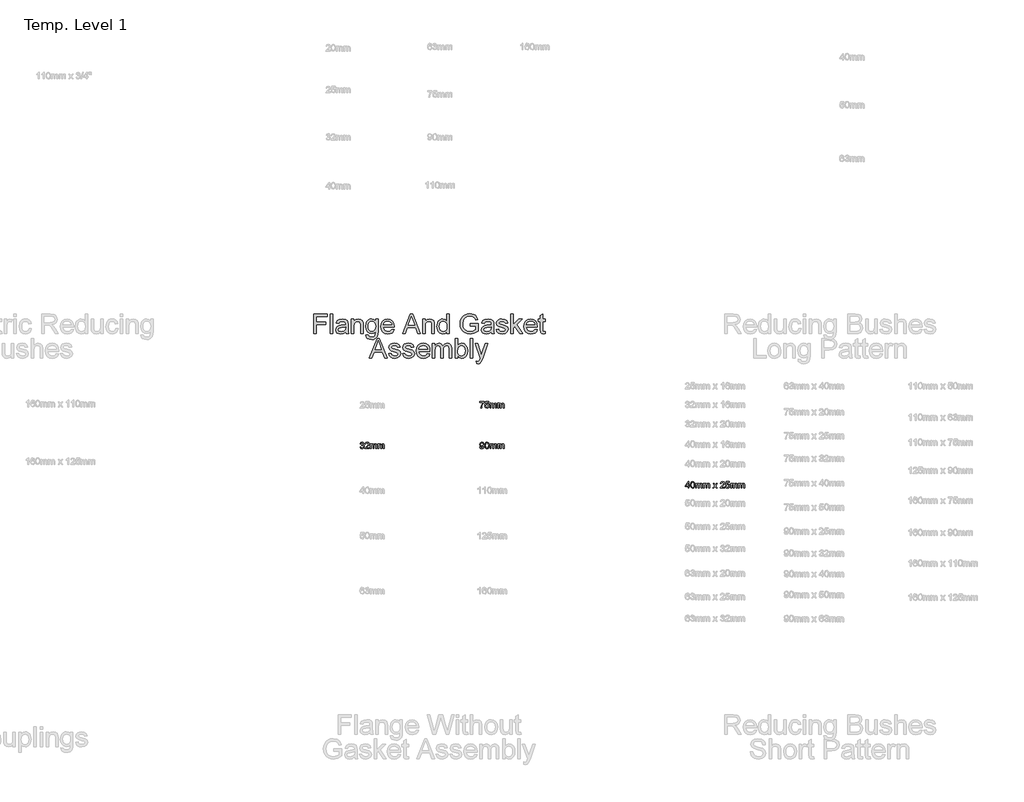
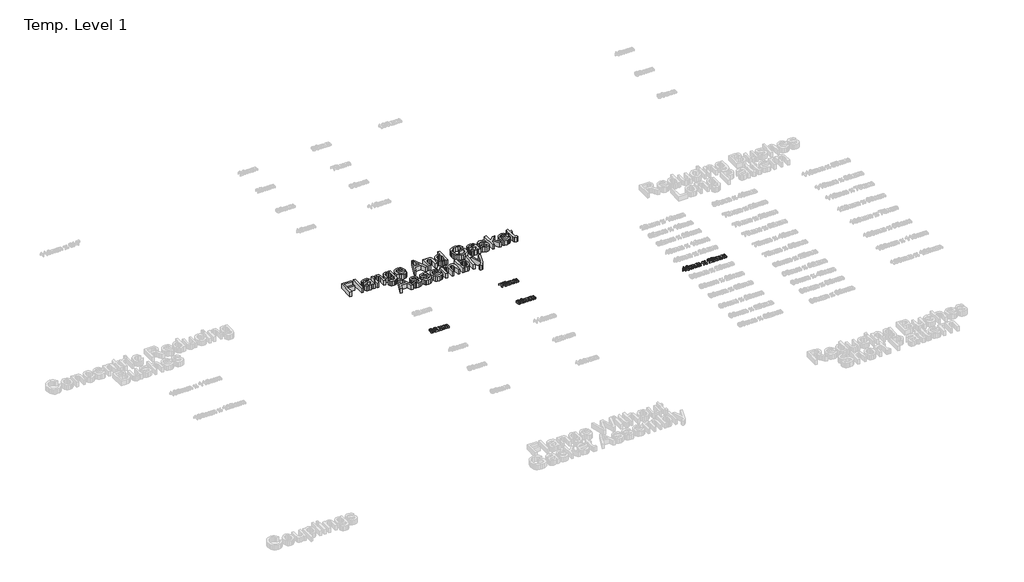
# One storey, part 35 of 62: 5 proxies.
"""IFC4 building model written with IfcOpenShell, lengths in millimetres."""

from ifc_helpers import new_model, si_unit, origin, origin_with_axes, place, context, project, spatial, polyline, outline, extrude, element, save

model = new_model("IFC4")

# Units and contexts
model_context = context("Model", 3, world=origin())
ifc_project = project(units=[si_unit("LENGTHUNIT", "METRE", prefix="MILLI")], contexts=[model_context])

# Site, building, storey
site = spatial("IfcSite", under=ifc_project)
building = spatial("IfcBuilding", under=site)
storey = spatial("IfcBuildingStorey", under=building, Name="Temp. Level 1", Elevation=0.0)

# Proxies
placement = place(None, origin())
element("IfcBuildingElementProxy", 1, Name="150mm Arial", ObjectType="150mm Arial", at=placement, inside=storey, context=model_context, shape_type="SweptSolid", body=[
    extrude(outline(polyline([(20559.579175, -3979.0446709), (20559.579175, -3831.3523632), (20658.8099442, -3831.3523632), (20658.8099442, -3849.8139016), (20578.0407135, -3849.8139016), (20578.0407135, -3893.6600555), (20647.2714827, -3893.6600555), (20647.2714827, -3912.1215939), (20578.0407135, -3912.1215939), (20578.0407135, -3979.0446709), (20559.579175, -3979.0446709)])), origin_with_axes(), (0.0, 0.0, 1.0), 50.0),
    extrude(outline(polyline([(20681.8868673, -3979.0446709), (20681.8868673, -3831.3523632), (20700.3484058, -3831.3523632), (20700.3484058, -3979.0446709), (20681.8868673, -3979.0446709)])), origin_with_axes(), (0.0, 0.0, 1.0), 50.0),
    extrude(outline(polyline([(20797.2714827, -3965.198517), (20779.3688385, -3977.7105362), (20759.5911942, -3981.3523632), (20744.1630091, -3979.1618584), (20732.7823, -3972.5903439), (20725.7645716, -3962.6113776), (20723.4253288, -3950.198517), (20726.9589827, -3935.5951516), (20736.2438385, -3924.9941901), (20749.1705212, -3918.9364978), (20765.1440788, -3916.1600555), (20797.1633096, -3909.8139016), (20797.2714827, -3905.7033247), (20796.000449, -3897.464142), (20792.1873481, -3892.073517), (20783.6597038, -3888.0711132), (20771.7786942, -3886.7369786), (20753.1008096, -3890.2886612), (20744.1945596, -3902.8908247), (20725.7330212, -3900.5831324), (20733.7198, -3882.5542862), (20749.8015308, -3871.9893824), (20774.1585019, -3868.2754401), (20796.5323, -3871.5566901), (20809.1705212, -3879.7958728), (20814.8315788, -3892.3259209), (20815.7330212, -3908.479767), (20815.7330212, -3931.448517), (20816.6705212, -3963.5218343), (20820.3484058, -3979.0446709), (20801.8868673, -3979.0446709), (20797.2714827, -3965.198517)]), holes=[polyline([(20797.2714827, -3928.2754401), (20767.4878288, -3933.9364978), (20751.6044154, -3936.9292862), (20744.4109058, -3941.7970747), (20741.8868673, -3948.9004401), (20747.3856654, -3958.8884209), (20763.5214827, -3962.8908247), (20782.1993673, -3958.4737574), (20794.2426365, -3947.7826516), (20797.1633096, -3933.5038055), (20797.2714827, -3928.2754401)])]), origin_with_axes(), (0.0, 0.0, 1.0), 50.0),
    extrude(outline(polyline([(20841.1176365, -3979.0446709), (20841.1176365, -3870.5831324), (20859.579175, -3870.5831324), (20859.579175, -3885.7273632), (20873.6957615, -3872.6384209), (20892.9685981, -3868.2754401), (20910.4024923, -3871.7910651), (20922.3015308, -3881.0218343), (20927.8363865, -3894.5975555), (20928.8099442, -3912.4461132), (20928.8099442, -3979.0446709), (20910.3484058, -3979.0446709), (20910.3484058, -3914.9340939), (20908.2210019, -3898.5999593), (20900.7029731, -3889.964142), (20888.0286942, -3886.7369786), (20877.2158938, -3888.5488776), (20867.9986462, -3893.9845747), (20861.6840428, -3904.4863776), (20859.579175, -3921.4965939), (20859.579175, -3979.0446709), (20841.1176365, -3979.0446709)])), origin_with_axes(), (0.0, 0.0, 1.0), 50.0),
    extrude(outline(polyline([(20949.579175, -3988.2754401), (20968.0407135, -3990.5831324), (20974.0262904, -4000.3187093), (20991.9469635, -4004.4292862), (21010.8411942, -3999.7778439), (21019.8556173, -3986.7249593), (21021.1176365, -3965.198517), (21008.1188385, -3975.5831324), (20992.2714827, -3979.0446709), (20973.2375284, -3975.0152237), (20959.0443192, -3962.9268824), (20950.2146918, -3945.2045266), (20947.2714827, -3924.2730362), (20952.5539346, -3895.6612574), (20959.017276, -3884.0461733), (20967.8423962, -3875.4148632), (20978.727312, -3870.0602959), (20991.3700404, -3868.2754401), (21007.8393913, -3872.3139016), (21021.1176365, -3884.4292862), (21021.1176365, -3870.5831324), (21039.579175, -3870.5831324), (21039.579175, -3964.2249593), (21038.3171558, -3985.8460531), (21034.5310981, -4000.0843343), (21028.009163, -4009.5269425), (21018.5395115, -4016.761017), (21006.3294755, -4021.3583728), (20991.5863865, -4022.8908247), (20974.4094034, -4020.7318704), (20960.8832615, -4014.2550074), (20952.2068793, -4003.4422069), (20949.579175, -3988.2754401)]), holes=[polyline([(20965.7330212, -3923.011017), (20967.7026726, -3939.9446108), (20973.6116269, -3951.5867382), (20982.4953409, -3958.3340338), (20993.3892712, -3960.5831324), (21004.2020716, -3958.3475555), (21013.1308577, -3951.6408247), (21019.1209418, -3940.1474353), (21021.1176365, -3923.5518824), (21019.0623481, -3907.5467742), (21012.8964827, -3896.0218343), (21003.8369875, -3889.0581925), (20993.1008096, -3886.7369786), (20982.5584418, -3889.0221348), (20973.7198, -3895.8776036), (20967.7297159, -3907.2312694), (20965.7330212, -3923.011017)])]), origin_with_axes(), (0.0, 0.0, 1.0), 50.0),
    extrude(outline(polyline([(21143.2089827, -3946.7369786), (21161.3099442, -3949.0446709), (21154.7880091, -3962.683493), (21144.3808577, -3972.8788055), (21130.3228649, -3979.2339737), (21112.8484058, -3981.3523632), (21091.1867471, -3977.6970146), (21074.5190788, -3966.7309689), (21063.891074, -3949.1663656), (21060.3484058, -3925.7153439), (21063.9271317, -3901.4755603), (21074.6633096, -3883.3475555), (21091.1056173, -3872.0434689), (21111.8027327, -3868.2754401), (21131.8553168, -3872.0344545), (21147.8784538, -3883.3114978), (21158.3847639, -3901.4034449), (21161.8868673, -3925.6071709), (21161.7786942, -3930.5831324), (21078.8099442, -3930.5831324), (21082.0055572, -3944.402243), (21089.4289346, -3954.5614978), (21100.1425764, -3960.808493), (21113.2089827, -3962.8908247), (21131.3099442, -3959.0326516), (21143.2089827, -3946.7369786)]), holes=[polyline([(21078.8099442, -3912.1215939), (21143.4253288, -3912.1215939), (21140.9283337, -3902.3679882), (21136.0335019, -3895.3908247), (21125.2702808, -3888.9004401), (21111.7306173, -3886.7369786), (21099.2862063, -3888.4632406), (21088.9962423, -3893.6420266), (21081.8432976, -3901.7144425), (21078.8099442, -3912.1215939)])]), origin_with_axes(), (0.0, 0.0, 1.0), 50.0),
    extrude(outline(polyline([(21223.1488865, -3979.0446709), (21282.1032135, -3831.3523632), (21297.8243673, -3831.3523632), (21356.7786942, -3979.0446709), (21337.2714827, -3979.0446709), (21320.360425, -3932.8908247), (21259.5310981, -3932.8908247), (21242.6560981, -3979.0446709), (21223.1488865, -3979.0446709)]), holes=[polyline([(21266.3099442, -3914.4292862), (21313.6176365, -3914.4292862), (21300.3123481, -3878.1191901), (21289.9637904, -3849.8139016), (21280.7690788, -3874.9461132), (21266.3099442, -3914.4292862)])]), origin_with_axes(), (0.0, 0.0, 1.0), 50.0),
    extrude(outline(polyline([(21374.1945596, -3979.0446709), (21374.1945596, -3870.5831324), (21392.6560981, -3870.5831324), (21392.6560981, -3885.7273632), (21406.7726846, -3872.6384209), (21426.0455212, -3868.2754401), (21443.4794154, -3871.7910651), (21455.3784538, -3881.0218343), (21460.9133096, -3894.5975555), (21461.8868673, -3912.4461132), (21461.8868673, -3979.0446709), (21443.4253288, -3979.0446709), (21443.4253288, -3914.9340939), (21441.297925, -3898.5999593), (21433.7798962, -3889.964142), (21421.1056173, -3886.7369786), (21410.2928168, -3888.5488776), (21401.0755692, -3893.9845747), (21394.7609659, -3904.4863776), (21392.6560981, -3921.4965939), (21392.6560981, -3979.0446709), (21374.1945596, -3979.0446709)])), origin_with_axes(), (0.0, 0.0, 1.0), 50.0),
    extrude(outline(polyline([(21554.1945596, -3979.0446709), (21554.1945596, -3961.6288055), (21541.9800163, -3976.4214737), (21525.0960019, -3981.3523632), (21513.1609058, -3979.5675074), (21502.235425, -3974.2129401), (21492.9866269, -3965.6627598), (21486.0815788, -3954.2910651), (21481.781699, -3940.5575915), (21480.3484058, -3924.9220747), (21485.6308577, -3895.5350555), (21492.2294154, -3883.8794064), (21501.4601846, -3875.3066901), (21512.6245476, -3870.0332526), (21525.0238865, -3868.2754401), (21542.0431173, -3873.3054882), (21554.1945596, -3886.3764016), (21554.1945596, -3831.3523632), (21572.6560981, -3831.3523632), (21572.6560981, -3979.0446709), (21554.1945596, -3979.0446709)]), holes=[polyline([(21498.8099442, -3924.8499593), (21500.892276, -3941.5491781), (21507.1392712, -3953.4256805), (21516.2167952, -3960.5245387), (21526.7907135, -3962.8908247), (21537.3601245, -3960.6327117), (21546.2077808, -3953.8583728), (21552.1978649, -3942.441606), (21554.1945596, -3926.2562093), (21552.1618072, -3908.5608968), (21546.06355, -3896.292267), (21536.9905332, -3889.1258007), (21526.0335019, -3886.7369786), (21515.3514106, -3889.0311492), (21506.5984058, -3895.9136612), (21500.7570596, -3907.7360771), (21498.8099442, -3924.8499593)])]), origin_with_axes(), (0.0, 0.0, 1.0), 50.0),
    extrude(outline(polyline([(21729.579175, -3921.3523632), (21729.579175, -3902.8908247), (21789.579175, -3902.8908247), (21789.579175, -3958.0951516), (21759.9577808, -3975.511017), (21728.641675, -3981.3523632), (21707.931038, -3979.0311492), (21689.2125885, -3972.0675074), (21673.6627087, -3960.7048271), (21662.4577808, -3945.1864978), (21655.6834418, -3926.5717141), (21653.4253288, -3905.9196709), (21655.6744274, -3885.1188896), (21662.4217231, -3865.7694305), (21673.3877688, -3849.5389617), (21688.2931173, -3838.0951516), (21706.4481654, -3831.3072911), (21727.1633096, -3829.0446709), (21756.0455212, -3834.2910651), (21767.5614466, -3840.5651036), (21776.2919154, -3848.8944305), (21787.4517712, -3873.323517), (21770.4325404, -3878.1191901), (21762.0130692, -3861.0458728), (21747.62605, -3851.2021228), (21726.8748481, -3847.5062093), (21703.2390308, -3851.4905843), (21687.1573, -3861.9473151), (21677.6560981, -3876.1720747), (21671.8868673, -3905.1624593), (21673.6221438, -3922.8172069), (21678.8279731, -3937.3439497), (21687.3466029, -3948.6390218), (21699.0202808, -3956.5987574), (21712.6816389, -3961.3178079), (21727.1633096, -3962.8908247), (21752.4217231, -3958.1492382), (21771.1176365, -3948.0350555), (21771.1176365, -3921.3523632), (21729.579175, -3921.3523632)])), origin_with_axes(), (0.0, 0.0, 1.0), 50.0),
    extrude(outline(polyline([(21886.5022519, -3965.198517), (21868.5996077, -3977.7105362), (21848.8219635, -3981.3523632), (21833.3937784, -3979.1618584), (21822.0130692, -3972.5903439), (21814.9953409, -3962.6113776), (21812.6560981, -3950.198517), (21816.1897519, -3935.5951516), (21825.4746077, -3924.9941901), (21838.4012904, -3918.9364978), (21854.3748481, -3916.1600555), (21886.3940788, -3909.8139016), (21886.5022519, -3905.7033247), (21885.2312183, -3897.464142), (21881.4181173, -3892.073517), (21872.8904731, -3888.0711132), (21861.0094635, -3886.7369786), (21842.3315788, -3890.2886612), (21833.4253288, -3902.8908247), (21814.9637904, -3900.5831324), (21822.9505692, -3882.5542862), (21839.0323, -3871.9893824), (21863.3892712, -3868.2754401), (21885.7630692, -3871.5566901), (21898.4012904, -3879.7958728), (21904.0623481, -3892.3259209), (21904.9637904, -3908.479767), (21904.9637904, -3931.448517), (21905.9012904, -3963.5218343), (21909.579175, -3979.0446709), (21891.1176365, -3979.0446709), (21886.5022519, -3965.198517)]), holes=[polyline([(21886.5022519, -3928.2754401), (21856.7185981, -3933.9364978), (21840.8351846, -3936.9292862), (21833.641675, -3941.7970747), (21831.1176365, -3948.9004401), (21836.6164346, -3958.8884209), (21852.7522519, -3962.8908247), (21871.4301365, -3958.4737574), (21883.4734058, -3947.7826516), (21886.3940788, -3933.5038055), (21886.5022519, -3928.2754401)])]), origin_with_axes(), (0.0, 0.0, 1.0), 50.0),
    extrude(outline(polyline([(21923.4253288, -3946.7369786), (21941.8868673, -3944.4292862), (21944.798526, -3952.3259209), (21950.4325404, -3958.1312093), (21970.0118673, -3962.8908247), (21988.8339827, -3958.5278439), (21994.9637904, -3948.2874593), (21988.797925, -3939.9941901), (21969.7955212, -3934.729767), (21941.9950404, -3925.6973151), (21929.8616269, -3915.1504401), (21925.7330212, -3900.2586132), (21929.0503288, -3886.5026036), (21938.1008096, -3875.9917862), (21949.8375885, -3870.5290459), (21965.7210019, -3868.2754401), (21988.1849442, -3871.8992382), (22002.4637904, -3881.7069305), (22008.8099442, -3898.2754401), (21990.3484058, -3900.5831324), (21983.4073, -3890.3968343), (21967.1633096, -3886.7369786), (21949.4950404, -3890.2345747), (21944.1945596, -3898.3836132), (21946.3940788, -3903.7562093), (21953.2810981, -3907.8307286), (21969.1825404, -3911.761017), (21996.2798962, -3920.4509209), (22008.8640308, -3930.2946709), (22013.4253288, -3946.3403439), (22008.0707615, -3964.0086132), (21992.6200404, -3976.8271228), (21969.7594635, -3981.3523632), (21951.1446798, -3979.1708728), (21937.5599442, -3972.6264016), (21928.4914346, -3961.7910651), (21923.4253288, -3946.7369786)])), origin_with_axes(), (0.0, 0.0, 1.0), 50.0),
    extrude(outline(polyline([(22034.1945596, -3979.0446709), (22034.1945596, -3831.3523632), (22052.6560981, -3831.3523632), (22052.6560981, -3910.7153439), (22094.0503288, -3870.5831324), (22119.579175, -3870.5831324), (22077.6801365, -3911.2201516), (22121.8868673, -3979.0446709), (22100.3243673, -3979.0446709), (22064.4469635, -3924.0566901), (22052.6560981, -3935.4869786), (22052.6560981, -3979.0446709), (22034.1945596, -3979.0446709)])), origin_with_axes(), (0.0, 0.0, 1.0), 50.0),
    extrude(outline(polyline([(22213.9782135, -3946.7369786), (22232.079175, -3949.0446709), (22225.5572399, -3962.683493), (22215.1500885, -3972.8788055), (22201.0920957, -3979.2339737), (22183.6176365, -3981.3523632), (22161.9559779, -3977.6970146), (22145.2883096, -3966.7309689), (22134.6603048, -3949.1663656), (22131.1176365, -3925.7153439), (22134.6963625, -3901.4755603), (22145.4325404, -3883.3475555), (22161.8748481, -3872.0434689), (22182.5719635, -3868.2754401), (22202.6245476, -3872.0344545), (22218.6476846, -3883.3114978), (22229.1539947, -3901.4034449), (22232.6560981, -3925.6071709), (22232.547925, -3930.5831324), (22149.579175, -3930.5831324), (22152.774788, -3944.402243), (22160.1981654, -3954.5614978), (22170.9118072, -3960.808493), (22183.9782135, -3962.8908247), (22202.079175, -3959.0326516), (22213.9782135, -3946.7369786)]), holes=[polyline([(22149.579175, -3912.1215939), (22214.1945596, -3912.1215939), (22211.6975644, -3902.3679882), (22206.8027327, -3895.3908247), (22196.0395115, -3888.9004401), (22182.4998481, -3886.7369786), (22170.055437, -3888.4632406), (22159.7654731, -3893.6420266), (22152.6125284, -3901.7144425), (22149.579175, -3912.1215939)])]), origin_with_axes(), (0.0, 0.0, 1.0), 50.0),
    extrude(outline(polyline([(22290.3484058, -3963.6480362), (22292.6560981, -3979.5855362), (22278.8460019, -3981.3523632), (22263.3772519, -3978.2874593), (22255.6609058, -3970.2465939), (22253.4253288, -3949.2970747), (22253.4253288, -3889.0446709), (22239.579175, -3889.0446709), (22239.579175, -3870.5831324), (22253.4253288, -3870.5831324), (22253.4253288, -3844.2249593), (22271.8868673, -3833.3715939), (22271.8868673, -3870.5831324), (22290.3484058, -3870.5831324), (22290.3484058, -3889.0446709), (22271.8868673, -3889.0446709), (22271.8868673, -3948.7562093), (22272.860425, -3958.2754401), (22276.0154731, -3961.6468343), (22282.3075404, -3962.8908247), (22290.3484058, -3963.6480362)])), origin_with_axes(), (0.0, 0.0, 1.0), 50.0),
    extrude(outline(polyline([(20975.0719635, -4161.3523632), (21034.0262904, -4013.6600555), (21049.7474442, -4013.6600555), (21108.7017712, -4161.3523632), (21089.1945596, -4161.3523632), (21072.2835019, -4115.198517), (21011.454175, -4115.198517), (20994.579175, -4161.3523632), (20975.0719635, -4161.3523632)]), holes=[polyline([(21018.2330212, -4096.7369786), (21065.5407135, -4096.7369786), (21052.235425, -4060.4268824), (21041.8868673, -4032.1215939), (21032.6921558, -4057.2538055), (21018.2330212, -4096.7369786)])]), origin_with_axes(), (0.0, 0.0, 1.0), 50.0),
    extrude(outline(polyline([(21119.1945596, -4129.0446709), (21137.6560981, -4126.7369786), (21140.5677567, -4134.6336132), (21146.2017712, -4140.4389016), (21165.7810981, -4145.198517), (21184.6032135, -4140.8355362), (21190.7330212, -4130.5951516), (21184.5671558, -4122.3018824), (21165.5647519, -4117.0374593), (21137.7642712, -4108.0050074), (21125.6308577, -4097.4581324), (21121.5022519, -4082.5663055), (21124.8195596, -4068.8102959), (21133.8700404, -4058.2994786), (21145.6068192, -4052.8367382), (21161.4902327, -4050.5831324), (21183.954175, -4054.2069305), (21198.2330212, -4064.0146228), (21204.579175, -4080.5831324), (21186.1176365, -4082.8908247), (21179.1765308, -4072.7045266), (21162.9325404, -4069.0446709), (21145.2642712, -4072.542267), (21139.9637904, -4080.6913055), (21142.1633096, -4086.0639016), (21149.0503288, -4090.1384209), (21164.9517712, -4094.0687093), (21192.0491269, -4102.7586132), (21204.6332615, -4112.6023632), (21209.1945596, -4128.6480362), (21203.8399923, -4146.3163055), (21188.3892712, -4159.1348151), (21165.5286942, -4163.6600555), (21146.9139106, -4161.4785651), (21133.329175, -4154.9340939), (21124.2606654, -4144.0987574), (21119.1945596, -4129.0446709)])), origin_with_axes(), (0.0, 0.0, 1.0), 50.0),
    extrude(outline(polyline([(21223.0407135, -4129.0446709), (21241.5022519, -4126.7369786), (21244.4139106, -4134.6336132), (21250.047925, -4140.4389016), (21269.6272519, -4145.198517), (21288.4493673, -4140.8355362), (21294.579175, -4130.5951516), (21288.4133096, -4122.3018824), (21269.4109058, -4117.0374593), (21241.610425, -4108.0050074), (21229.4770115, -4097.4581324), (21225.3484058, -4082.5663055), (21228.6657135, -4068.8102959), (21237.7161942, -4058.2994786), (21249.4529731, -4052.8367382), (21265.3363865, -4050.5831324), (21287.8003288, -4054.2069305), (21302.079175, -4064.0146228), (21308.4253288, -4080.5831324), (21289.9637904, -4082.8908247), (21283.0226846, -4072.7045266), (21266.7786942, -4069.0446709), (21249.110425, -4072.542267), (21243.8099442, -4080.6913055), (21246.0094635, -4086.0639016), (21252.8964827, -4090.1384209), (21268.797925, -4094.0687093), (21295.8952808, -4102.7586132), (21308.4794154, -4112.6023632), (21313.0407135, -4128.6480362), (21307.6861462, -4146.3163055), (21292.235425, -4159.1348151), (21269.3748481, -4163.6600555), (21250.7600644, -4161.4785651), (21237.1753288, -4154.9340939), (21228.1068192, -4144.0987574), (21223.0407135, -4129.0446709)])), origin_with_axes(), (0.0, 0.0, 1.0), 50.0),
    extrude(outline(polyline([(21409.7474442, -4129.0446709), (21427.8484058, -4131.3523632), (21421.3264707, -4144.9911853), (21410.9193192, -4155.1864978), (21396.8613264, -4161.5416661), (21379.3868673, -4163.6600555), (21357.7252087, -4160.0047069), (21341.0575404, -4149.0386612), (21330.4295356, -4131.4740579), (21326.8868673, -4108.0230362), (21330.4655933, -4083.7832526), (21341.2017712, -4065.6552478), (21357.6440788, -4054.3511612), (21378.3411942, -4050.5831324), (21398.3937784, -4054.3421468), (21414.4169154, -4065.6191901), (21424.9232255, -4083.7111372), (21428.4253288, -4107.9148632), (21428.3171558, -4112.8908247), (21345.3484058, -4112.8908247), (21348.5440188, -4126.7099353), (21355.9673962, -4136.8691901), (21366.681038, -4143.1161853), (21379.7474442, -4145.198517), (21397.8484058, -4141.3403439), (21409.7474442, -4129.0446709)]), holes=[polyline([(21345.3484058, -4094.4292862), (21409.9637904, -4094.4292862), (21407.4667952, -4084.6756805), (21402.5719635, -4077.698517), (21391.8087423, -4071.2081324), (21378.2690788, -4069.0446709), (21365.8246678, -4070.7709329), (21355.5347038, -4075.9497189), (21348.3817591, -4084.0221348), (21345.3484058, -4094.4292862)])]), origin_with_axes(), (0.0, 0.0, 1.0), 50.0),
    extrude(outline(polyline([(21446.8868673, -4161.3523632), (21446.8868673, -4052.8908247), (21465.3484058, -4052.8908247), (21465.3484058, -4070.7393824), (21478.0407135, -4056.1179882), (21496.1056173, -4050.5831324), (21506.3730452, -4051.9938896), (21514.6032135, -4056.2261612), (21524.7714827, -4072.0374593), (21539.1765308, -4055.9467141), (21557.3676365, -4050.5831324), (21571.2453409, -4052.8142021), (21581.5082615, -4059.5074112), (21587.8499082, -4070.8430483), (21589.9637904, -4087.0014016), (21589.9637904, -4161.3523632), (21571.5022519, -4161.3523632), (21571.5022519, -4094.9340939), (21569.7895115, -4079.5194305), (21563.5875885, -4071.9292862), (21553.0407135, -4069.0446709), (21543.0392111, -4070.8926276), (21534.8856654, -4076.4364978), (21529.4634899, -4086.0548872), (21527.6560981, -4100.1264016), (21527.6560981, -4161.3523632), (21509.1945596, -4161.3523632), (21509.1945596, -4092.8788055), (21504.9217231, -4074.9941901), (21499.2832014, -4070.5320507), (21490.9133096, -4069.0446709), (21477.2474442, -4073.011017), (21468.1609058, -4084.6215939), (21465.3484058, -4106.6528439), (21465.3484058, -4161.3523632), (21446.8868673, -4161.3523632)])), origin_with_axes(), (0.0, 0.0, 1.0), 50.0),
    extrude(outline(polyline([(21636.1176365, -4161.3523632), (21617.6560981, -4161.3523632), (21617.6560981, -4013.6600555), (21636.1176365, -4013.6600555), (21636.1176365, -4068.4316901), (21649.0443192, -4055.0452718), (21665.1080212, -4050.5831324), (21683.6056173, -4054.6035651), (21697.9565788, -4065.9076516), (21706.7726846, -4083.4857766), (21709.9637904, -4105.4989978), (21706.6600043, -4130.1444305), (21696.7486462, -4148.479767), (21682.2038745, -4159.8649834), (21664.9998481, -4163.6600555), (21648.5845837, -4158.7652237), (21636.1176365, -4144.0807286), (21636.1176365, -4161.3523632)]), holes=[polyline([(21636.1176365, -4106.3643824), (21637.3796558, -4121.761017), (21641.1657135, -4132.1816901), (21650.8381894, -4141.9443103), (21663.4133096, -4145.198517), (21674.0683577, -4142.8006805), (21683.172925, -4135.6071709), (21689.4199202, -4123.6630603), (21691.5022519, -4107.0134209), (21689.5055572, -4090.120392), (21683.5154731, -4078.3114978), (21674.6948601, -4071.3613776), (21664.2065788, -4069.0446709), (21653.5515308, -4071.4425074), (21644.4469635, -4078.636017), (21638.1999683, -4090.3637814), (21636.1176365, -4106.3643824)])]), origin_with_axes(), (0.0, 0.0, 1.0), 50.0),
    extrude(outline(polyline([(21730.7330212, -4161.3523632), (21730.7330212, -4013.6600555), (21749.1945596, -4013.6600555), (21749.1945596, -4161.3523632), (21730.7330212, -4161.3523632)])), origin_with_axes(), (0.0, 0.0, 1.0), 50.0),
    extrude(outline(polyline([(21776.8868673, -4202.8908247), (21774.579175, -4185.1143824), (21783.954175, -4186.7369786), (21792.7161942, -4184.6997189), (21798.0887904, -4179.0206324), (21803.1368673, -4165.4268824), (21804.579175, -4160.9557286), (21765.3484058, -4052.8908247), (21784.8195596, -4052.8908247), (21805.6248481, -4113.1071709), (21812.8724442, -4137.1937093), (21820.1200404, -4115.9196709), (21841.5022519, -4052.8908247), (21860.829175, -4052.8908247), (21823.0767712, -4163.948517), (21813.2690788, -4188.0350555), (21802.5599442, -4201.0518824), (21788.172925, -4205.198517), (21776.8868673, -4202.8908247)])), origin_with_axes(), (0.0, 0.0, 1.0), 50.0),
])
element("IfcBuildingElementProxy", 2, Name="50mm Arial", ObjectType="50mm Arial", at=placement, inside=storey, context=model_context, shape_type="SweptSolid", body=[
    extrude(outline(polyline([(20905.2361186, -4827.1215939), (20911.3899648, -4826.3523632), (20914.7853975, -4832.8307286), (20921.1375609, -4834.8139016), (20928.6135225, -4832.0855362), (20931.3899648, -4825.3307286), (20928.6375609, -4818.9665459), (20921.6423686, -4816.448517), (20917.3274648, -4817.1215939), (20918.0125609, -4810.9677478), (20925.9813109, -4809.2730362), (20929.0822725, -4803.8403439), (20926.8346763, -4799.026642), (20921.0414071, -4797.1215939), (20915.1760225, -4799.0446709), (20912.1591956, -4804.8139016), (20906.0053494, -4804.0446709), (20911.0414071, -4794.3932286), (20920.8250609, -4790.9677478), (20928.2469359, -4792.6564497), (20933.4392436, -4797.2718343), (20935.2361186, -4803.479767), (20933.5293879, -4809.1528439), (20928.4813109, -4813.2273632), (20935.1880417, -4817.4340939), (20937.5438109, -4825.4389016), (20932.8322725, -4836.448517), (20920.9212148, -4840.9677478), (20910.1279456, -4837.1095747), (20905.2361186, -4827.1215939)])), origin_with_axes(), (0.0, 0.0, 1.0), 15.0),
    extrude(outline(polyline([(20974.4668879, -4834.0446709), (20974.4668879, -4840.198517), (20942.1591956, -4840.198517), (20942.8202533, -4835.9557286), (20946.558234, -4829.4232766), (20954.2625609, -4822.2898632), (20964.8875609, -4812.0374593), (20967.5438109, -4805.0663055), (20965.0378013, -4799.4232766), (20958.4933302, -4797.1215939), (20951.6724167, -4799.3691901), (20949.0822725, -4805.5831324), (20942.9284263, -4804.8139016), (20947.6459744, -4794.5134209), (20958.6255417, -4790.9677478), (20969.6411667, -4794.9100555), (20973.6976571, -4804.6937093), (20972.6039071, -4810.5290459), (20968.9680898, -4816.5626997), (20960.151984, -4824.9941901), (20953.0726571, -4830.9136612), (20950.2962148, -4834.0446709), (20974.4668879, -4834.0446709)])), origin_with_axes(), (0.0, 0.0, 1.0), 15.0),
    extrude(outline(polyline([(20982.1591956, -4840.198517), (20982.1591956, -4804.0446709), (20988.3130417, -4804.0446709), (20988.3130417, -4809.9941901), (20992.5438109, -4805.120392), (20998.5654456, -4803.2754401), (21004.7313109, -4805.1564497), (21008.120734, -4810.4268824), (21012.9224167, -4805.0633007), (21018.9861186, -4803.2754401), (21027.0329936, -4806.2501997), (21029.8515033, -4815.4148632), (21029.8515033, -4840.198517), (21023.6976571, -4840.198517), (21023.6976571, -4818.0590939), (21023.1267436, -4812.9208728), (21021.0594359, -4810.3908247), (21017.5438109, -4809.4292862), (21011.4921283, -4811.8932286), (21009.0822725, -4819.7898632), (21009.0822725, -4840.198517), (21002.9284263, -4840.198517), (21002.9284263, -4817.3739978), (21001.5041475, -4811.4124593), (20996.8346763, -4809.4292862), (20992.2793879, -4810.7514016), (20989.2505417, -4814.6215939), (20988.3130417, -4821.9653439), (20988.3130417, -4840.198517), (20982.1591956, -4840.198517)])), origin_with_axes(), (0.0, 0.0, 1.0), 15.0),
    extrude(outline(polyline([(21039.0822725, -4840.198517), (21039.0822725, -4804.0446709), (21045.2361186, -4804.0446709), (21045.2361186, -4809.9941901), (21049.4668879, -4805.120392), (21055.4885225, -4803.2754401), (21061.6543879, -4805.1564497), (21065.0438109, -4810.4268824), (21069.8454936, -4805.0633007), (21075.9091956, -4803.2754401), (21083.9560706, -4806.2501997), (21086.7745802, -4815.4148632), (21086.7745802, -4840.198517), (21080.620734, -4840.198517), (21080.620734, -4818.0590939), (21080.0498206, -4812.9208728), (21077.9825129, -4810.3908247), (21074.4668879, -4809.4292862), (21068.4152052, -4811.8932286), (21066.0053494, -4819.7898632), (21066.0053494, -4840.198517), (21059.8515033, -4840.198517), (21059.8515033, -4817.3739978), (21058.4272244, -4811.4124593), (21053.7577533, -4809.4292862), (21049.2024648, -4810.7514016), (21046.1736186, -4814.6215939), (21045.2361186, -4821.9653439), (21045.2361186, -4840.198517), (21039.0822725, -4840.198517)])), origin_with_axes(), (0.0, 0.0, 1.0), 15.0),
])
element("IfcBuildingElementProxy", 3, Name="50mm Arial", ObjectType="50mm Arial", at=placement, inside=storey, context=model_context, shape_type="SweptSolid", body=[
    extrude(outline(polyline([(21801.2361186, -4492.8908247), (21801.2361186, -4486.7369786), (21833.5438109, -4486.7369786), (21833.5438109, -4491.7129401), (21824.3791475, -4504.9521228), (21817.3659263, -4521.8211132), (21815.0822725, -4535.198517), (21808.9284263, -4535.198517), (21811.3743398, -4521.3163055), (21818.0870802, -4505.6251997), (21827.3899648, -4492.8908247), (21801.2361186, -4492.8908247)])), origin_with_axes(), (0.0, 0.0, 1.0), 15.0),
    extrude(outline(polyline([(21838.9284263, -4522.1215939), (21845.0822725, -4521.3523632), (21848.183234, -4527.6925074), (21854.6135225, -4529.8139016), (21862.3298686, -4526.8631805), (21865.0822725, -4519.0326516), (21862.5041475, -4511.7249593), (21854.7096763, -4509.0446709), (21849.3070321, -4510.1143824), (21845.8515033, -4512.8908247), (21839.6976571, -4512.1215939), (21845.0822725, -4486.7369786), (21868.9284263, -4486.7369786), (21868.9284263, -4492.8908247), (21850.058234, -4492.8908247), (21847.4260225, -4506.448517), (21856.4284263, -4502.8908247), (21866.9512629, -4507.3018824), (21871.2361186, -4518.6480362), (21867.3779456, -4530.0663055), (21861.8370802, -4534.4923872), (21854.589484, -4535.9677478), (21843.730109, -4532.1756805), (21838.9284263, -4522.1215939)])), origin_with_axes(), (0.0, 0.0, 1.0), 15.0),
    extrude(outline(polyline([(21878.1591956, -4535.198517), (21878.1591956, -4499.0446709), (21884.3130417, -4499.0446709), (21884.3130417, -4504.9941901), (21888.5438109, -4500.120392), (21894.5654456, -4498.2754401), (21900.7313109, -4500.1564497), (21904.120734, -4505.4268824), (21908.9224167, -4500.0633007), (21914.9861186, -4498.2754401), (21923.0329936, -4501.2501997), (21925.8515033, -4510.4148632), (21925.8515033, -4535.198517), (21919.6976571, -4535.198517), (21919.6976571, -4513.0590939), (21919.1267436, -4507.9208728), (21917.0594359, -4505.3908247), (21913.5438109, -4504.4292862), (21907.4921283, -4506.8932286), (21905.0822725, -4514.7898632), (21905.0822725, -4535.198517), (21898.9284263, -4535.198517), (21898.9284263, -4512.3739978), (21897.5041475, -4506.4124593), (21892.8346763, -4504.4292862), (21888.2793879, -4505.7514016), (21885.2505417, -4509.6215939), (21884.3130417, -4516.9653439), (21884.3130417, -4535.198517), (21878.1591956, -4535.198517)])), origin_with_axes(), (0.0, 0.0, 1.0), 15.0),
    extrude(outline(polyline([(21935.0822725, -4535.198517), (21935.0822725, -4499.0446709), (21941.2361186, -4499.0446709), (21941.2361186, -4504.9941901), (21945.4668879, -4500.120392), (21951.4885225, -4498.2754401), (21957.6543879, -4500.1564497), (21961.0438109, -4505.4268824), (21965.8454936, -4500.0633007), (21971.9091956, -4498.2754401), (21979.9560706, -4501.2501997), (21982.7745802, -4510.4148632), (21982.7745802, -4535.198517), (21976.620734, -4535.198517), (21976.620734, -4513.0590939), (21976.0498206, -4507.9208728), (21973.9825129, -4505.3908247), (21970.4668879, -4504.4292862), (21964.4152052, -4506.8932286), (21962.0053494, -4514.7898632), (21962.0053494, -4535.198517), (21955.8515033, -4535.198517), (21955.8515033, -4512.3739978), (21954.4272244, -4506.4124593), (21949.7577533, -4504.4292862), (21945.2024648, -4505.7514016), (21942.1736186, -4509.6215939), (21941.2361186, -4516.9653439), (21941.2361186, -4535.198517), (21935.0822725, -4535.198517)])), origin_with_axes(), (0.0, 0.0, 1.0), 15.0),
])
element("IfcBuildingElementProxy", 4, Name="50mm Arial", ObjectType="50mm Arial", at=placement, inside=storey, context=model_context, shape_type="SweptSolid", body=[
    extrude(outline(polyline([(21802.0053494, -4827.8908247), (21808.1591956, -4827.1215939), (21810.9236186, -4832.9929882), (21816.1640033, -4834.8139016), (21821.1459744, -4833.6420266), (21824.5233783, -4830.511017), (21826.5365994, -4825.1624593), (21827.4260225, -4818.0230362), (21822.4680898, -4821.4845747), (21815.7192917, -4823.2754401), (21805.4368398, -4818.9004401), (21801.2361186, -4807.3739978), (21805.6411667, -4795.4749593), (21816.6808302, -4790.9677478), (21825.448859, -4793.5398632), (21831.4825129, -4800.8715939), (21833.5438109, -4814.6456324), (21831.4885225, -4829.5915459), (21825.3767436, -4838.0590939), (21815.8755417, -4840.9677478), (21806.4164071, -4837.5362574), (21802.0053494, -4827.8908247)]), holes=[polyline([(21827.3899648, -4807.229767), (21824.7337148, -4799.8499593), (21817.6784263, -4797.1215939), (21810.2745802, -4800.0602959), (21807.3899648, -4807.6744786), (21810.1183302, -4814.495392), (21817.5101571, -4817.1215939), (21824.6075129, -4814.495392), (21827.3899648, -4807.229767)])]), origin_with_axes(), (0.0, 0.0, 1.0), 15.0),
    extrude(outline(polyline([(21838.9284263, -4815.979767), (21840.7373206, -4801.8151036), (21846.1099167, -4793.6480362), (21855.0822725, -4790.9677478), (21862.2697725, -4792.5542862), (21867.2337148, -4797.1276036), (21870.1183302, -4804.4112574), (21871.2361186, -4815.979767), (21869.4452533, -4830.0843343), (21864.0906859, -4838.2694305), (21855.0822725, -4840.9677478), (21843.8322725, -4836.2802478), (21840.1543879, -4827.9539257), (21838.9284263, -4815.979767)]), holes=[polyline([(21845.0822725, -4815.9677478), (21847.9668879, -4831.2501997), (21855.0822725, -4834.8139016), (21862.1976571, -4831.2381805), (21865.0822725, -4815.9677478), (21862.2938109, -4800.8595747), (21855.0101571, -4797.1215939), (21848.0630417, -4800.4148632), (21845.0822725, -4815.9677478)])]), origin_with_axes(), (0.0, 0.0, 1.0), 15.0),
    extrude(outline(polyline([(21878.1591956, -4840.198517), (21878.1591956, -4804.0446709), (21884.3130417, -4804.0446709), (21884.3130417, -4809.9941901), (21888.5438109, -4805.120392), (21894.5654456, -4803.2754401), (21900.7313109, -4805.1564497), (21904.120734, -4810.4268824), (21908.9224167, -4805.0633007), (21914.9861186, -4803.2754401), (21923.0329936, -4806.2501997), (21925.8515033, -4815.4148632), (21925.8515033, -4840.198517), (21919.6976571, -4840.198517), (21919.6976571, -4818.0590939), (21919.1267436, -4812.9208728), (21917.0594359, -4810.3908247), (21913.5438109, -4809.4292862), (21907.4921283, -4811.8932286), (21905.0822725, -4819.7898632), (21905.0822725, -4840.198517), (21898.9284263, -4840.198517), (21898.9284263, -4817.3739978), (21897.5041475, -4811.4124593), (21892.8346763, -4809.4292862), (21888.2793879, -4810.7514016), (21885.2505417, -4814.6215939), (21884.3130417, -4821.9653439), (21884.3130417, -4840.198517), (21878.1591956, -4840.198517)])), origin_with_axes(), (0.0, 0.0, 1.0), 15.0),
    extrude(outline(polyline([(21935.0822725, -4840.198517), (21935.0822725, -4804.0446709), (21941.2361186, -4804.0446709), (21941.2361186, -4809.9941901), (21945.4668879, -4805.120392), (21951.4885225, -4803.2754401), (21957.6543879, -4805.1564497), (21961.0438109, -4810.4268824), (21965.8454936, -4805.0633007), (21971.9091956, -4803.2754401), (21979.9560706, -4806.2501997), (21982.7745802, -4815.4148632), (21982.7745802, -4840.198517), (21976.620734, -4840.198517), (21976.620734, -4818.0590939), (21976.0498206, -4812.9208728), (21973.9825129, -4810.3908247), (21970.4668879, -4809.4292862), (21964.4152052, -4811.8932286), (21962.0053494, -4819.7898632), (21962.0053494, -4840.198517), (21955.8515033, -4840.198517), (21955.8515033, -4817.3739978), (21954.4272244, -4811.4124593), (21949.7577533, -4809.4292862), (21945.2024648, -4810.7514016), (21942.1736186, -4814.6215939), (21941.2361186, -4821.9653439), (21941.2361186, -4840.198517), (21935.0822725, -4840.198517)])), origin_with_axes(), (0.0, 0.0, 1.0), 15.0),
])
element("IfcBuildingElementProxy", 5, Name="50mm Arial", ObjectType="50mm Arial", at=placement, inside=storey, context=model_context, shape_type="SweptSolid", body=[
    extrude(outline(polyline([(23359.3793416, -5135.5242041), (23359.3793416, -5123.9857426), (23337.0716493, -5123.9857426), (23337.0716493, -5117.8318964), (23360.9178032, -5087.0626657), (23365.5331878, -5087.0626657), (23365.5331878, -5117.8318964), (23371.6870339, -5117.8318964), (23371.6870339, -5123.9857426), (23365.5331878, -5123.9857426), (23365.5331878, -5135.5242041), (23359.3793416, -5135.5242041)]), holes=[polyline([(23359.3793416, -5117.8318964), (23359.3793416, -5098.8174733), (23344.6437647, -5117.8318964), (23359.3793416, -5117.8318964)])]), origin_with_axes(), (0.0, 0.0, 1.0), 15.0),
    extrude(outline(polyline([(23377.0716493, -5111.3054541), (23378.8805435, -5097.1407907), (23384.2531397, -5088.9737233), (23393.2254955, -5086.2934349), (23400.4129955, -5087.8799733), (23405.3769378, -5092.4532907), (23408.2615532, -5099.7369445), (23409.3793416, -5111.3054541), (23407.5884762, -5125.4100214), (23402.2339089, -5133.5951176), (23393.2254955, -5136.2934349), (23381.9754955, -5131.6059349), (23378.2976109, -5123.2796128), (23377.0716493, -5111.3054541)]), holes=[polyline([(23383.2254955, -5111.2934349), (23386.1101109, -5126.5758868), (23393.2254955, -5130.1395887), (23400.3408801, -5126.5638676), (23403.2254955, -5111.2934349), (23400.4370339, -5096.1852618), (23393.1533801, -5092.447281), (23386.2062647, -5095.7405503), (23383.2254955, -5111.2934349)])]), origin_with_axes(), (0.0, 0.0, 1.0), 15.0),
    extrude(outline(polyline([(23416.3024185, -5135.5242041), (23416.3024185, -5099.370358), (23422.4562647, -5099.370358), (23422.4562647, -5105.3198772), (23426.6870339, -5100.4460791), (23432.7086685, -5098.6011272), (23438.8745339, -5100.4821368), (23442.263957, -5105.7525695), (23447.0656397, -5100.3889878), (23453.1293416, -5098.6011272), (23461.1762166, -5101.5758868), (23463.9947262, -5110.7405503), (23463.9947262, -5135.5242041), (23457.8408801, -5135.5242041), (23457.8408801, -5113.384781), (23457.2699666, -5108.2465599), (23455.2026589, -5105.7165118), (23451.6870339, -5104.7549733), (23445.6353512, -5107.2189157), (23443.2254955, -5115.1155503), (23443.2254955, -5135.5242041), (23437.0716493, -5135.5242041), (23437.0716493, -5112.6996849), (23435.6473705, -5106.7381464), (23430.9778993, -5104.7549733), (23426.4226109, -5106.0770887), (23423.3937647, -5109.947281), (23422.4562647, -5117.291031), (23422.4562647, -5135.5242041), (23416.3024185, -5135.5242041)])), origin_with_axes(), (0.0, 0.0, 1.0), 15.0),
    extrude(outline(polyline([(23473.2254955, -5135.5242041), (23473.2254955, -5099.370358), (23479.3793416, -5099.370358), (23479.3793416, -5105.3198772), (23483.6101109, -5100.4460791), (23489.6317455, -5098.6011272), (23495.7976109, -5100.4821368), (23499.1870339, -5105.7525695), (23503.9887166, -5100.3889878), (23510.0524185, -5098.6011272), (23518.0992935, -5101.5758868), (23520.9178032, -5110.7405503), (23520.9178032, -5135.5242041), (23514.763957, -5135.5242041), (23514.763957, -5113.384781), (23514.1930435, -5108.2465599), (23512.1257359, -5105.7165118), (23508.6101109, -5104.7549733), (23502.5584282, -5107.2189157), (23500.1485724, -5115.1155503), (23500.1485724, -5135.5242041), (23493.9947262, -5135.5242041), (23493.9947262, -5112.6996849), (23492.5704474, -5106.7381464), (23487.9009762, -5104.7549733), (23483.3456878, -5106.0770887), (23480.3168416, -5109.947281), (23479.3793416, -5117.291031), (23479.3793416, -5135.5242041), (23473.2254955, -5135.5242041)])), origin_with_axes(), (0.0, 0.0, 1.0), 15.0),
    extrude(outline(polyline([(23545.5331878, -5135.5242041), (23558.6822262, -5117.3511272), (23546.3024185, -5099.370358), (23553.7062647, -5099.370358), (23559.6798224, -5108.0242041), (23562.4682839, -5112.1107426), (23564.8841493, -5108.7693964), (23571.6870339, -5099.370358), (23579.0908801, -5099.370358), (23566.0860724, -5117.3511272), (23578.6101109, -5135.5242041), (23571.2062647, -5135.5242041), (23563.670207, -5124.5987233), (23562.2879955, -5122.603531), (23552.9370339, -5135.5242041), (23545.5331878, -5135.5242041)])), origin_with_axes(), (0.0, 0.0, 1.0), 15.0),
    extrude(outline(polyline([(23633.2254955, -5129.370358), (23633.2254955, -5135.5242041), (23600.9178032, -5135.5242041), (23601.5788609, -5131.2814157), (23605.3168416, -5124.7489637), (23613.0211685, -5117.6155503), (23623.6461685, -5107.3631464), (23626.3024185, -5100.3919926), (23623.7964089, -5094.7489637), (23617.2519378, -5092.447281), (23610.4310243, -5094.6948772), (23607.8408801, -5100.9088195), (23601.6870339, -5100.1395887), (23606.404582, -5089.839108), (23617.3841493, -5086.2934349), (23628.3997743, -5090.2357426), (23632.4562647, -5100.0193964), (23631.3625147, -5105.854733), (23627.7266974, -5111.8883868), (23618.9105916, -5120.3198772), (23611.8312647, -5126.2393483), (23609.0548224, -5129.370358), (23633.2254955, -5129.370358)])), origin_with_axes(), (0.0, 0.0, 1.0), 15.0),
    extrude(outline(polyline([(23639.3793416, -5122.447281), (23645.5331878, -5121.6780503), (23648.6341493, -5128.0181945), (23655.0644378, -5130.1395887), (23662.7807839, -5127.1888676), (23665.5331878, -5119.3583387), (23662.9550628, -5112.0506464), (23655.1605916, -5109.370358), (23649.7579474, -5110.4400695), (23646.3024185, -5113.2165118), (23640.1485724, -5112.447281), (23645.5331878, -5087.0626657), (23669.3793416, -5087.0626657), (23669.3793416, -5093.2165118), (23650.5091493, -5093.2165118), (23647.8769378, -5106.7742041), (23656.8793416, -5103.2165118), (23667.4021782, -5107.6275695), (23671.6870339, -5118.9737233), (23667.8288609, -5130.3919926), (23662.2879955, -5134.8180743), (23655.0403993, -5136.2934349), (23644.1810243, -5132.5013676), (23639.3793416, -5122.447281)])), origin_with_axes(), (0.0, 0.0, 1.0), 15.0),
    extrude(outline(polyline([(23678.6101109, -5135.5242041), (23678.6101109, -5099.370358), (23684.763957, -5099.370358), (23684.763957, -5105.3198772), (23688.9947262, -5100.4460791), (23695.0163609, -5098.6011272), (23701.1822262, -5100.4821368), (23704.5716493, -5105.7525695), (23709.373332, -5100.3889878), (23715.4370339, -5098.6011272), (23723.4839089, -5101.5758868), (23726.3024185, -5110.7405503), (23726.3024185, -5135.5242041), (23720.1485724, -5135.5242041), (23720.1485724, -5113.384781), (23719.5776589, -5108.2465599), (23717.5103512, -5105.7165118), (23713.9947262, -5104.7549733), (23707.9430435, -5107.2189157), (23705.5331878, -5115.1155503), (23705.5331878, -5135.5242041), (23699.3793416, -5135.5242041), (23699.3793416, -5112.6996849), (23697.9550628, -5106.7381464), (23693.2855916, -5104.7549733), (23688.7303032, -5106.0770887), (23685.701457, -5109.947281), (23684.763957, -5117.291031), (23684.763957, -5135.5242041), (23678.6101109, -5135.5242041)])), origin_with_axes(), (0.0, 0.0, 1.0), 15.0),
    extrude(outline(polyline([(23735.5331878, -5135.5242041), (23735.5331878, -5099.370358), (23741.6870339, -5099.370358), (23741.6870339, -5105.3198772), (23745.9178032, -5100.4460791), (23751.9394378, -5098.6011272), (23758.1053032, -5100.4821368), (23761.4947262, -5105.7525695), (23766.2964089, -5100.3889878), (23772.3601109, -5098.6011272), (23780.4069859, -5101.5758868), (23783.2254955, -5110.7405503), (23783.2254955, -5135.5242041), (23777.0716493, -5135.5242041), (23777.0716493, -5113.384781), (23776.5007359, -5108.2465599), (23774.4334282, -5105.7165118), (23770.9178032, -5104.7549733), (23764.8661205, -5107.2189157), (23762.4562647, -5115.1155503), (23762.4562647, -5135.5242041), (23756.3024185, -5135.5242041), (23756.3024185, -5112.6996849), (23754.8781397, -5106.7381464), (23750.2086685, -5104.7549733), (23745.6533801, -5106.0770887), (23742.6245339, -5109.947281), (23741.6870339, -5117.291031), (23741.6870339, -5135.5242041), (23735.5331878, -5135.5242041)])), origin_with_axes(), (0.0, 0.0, 1.0), 15.0),
])

save(model, "model.ifc")
